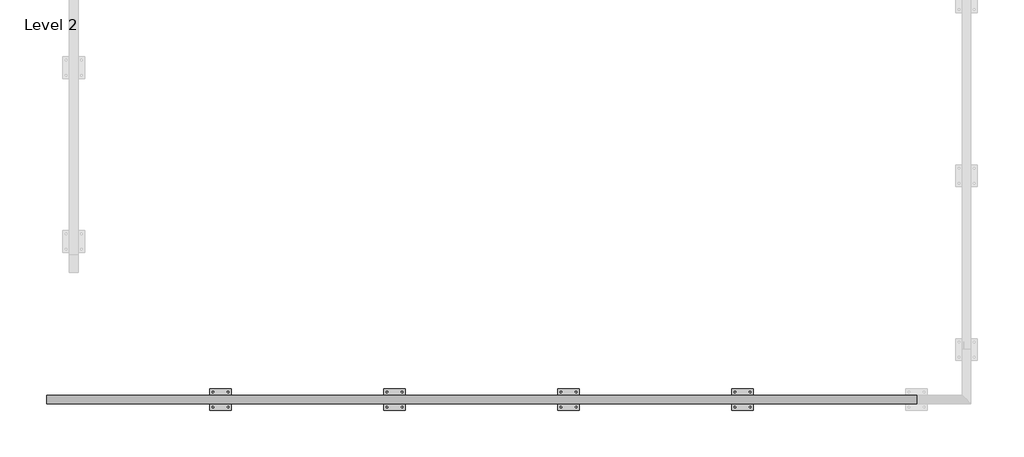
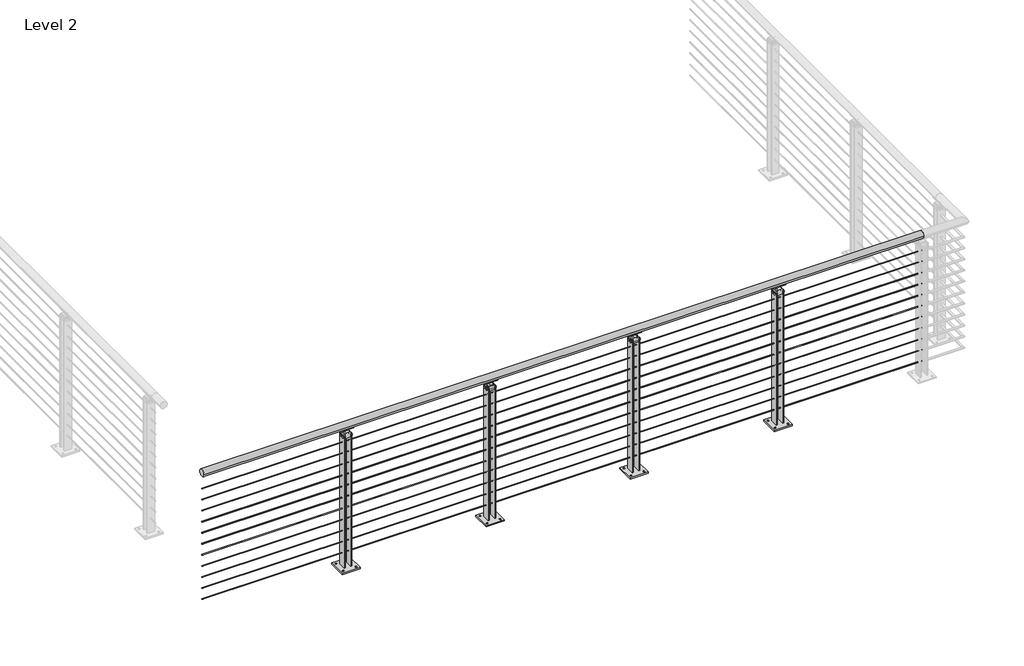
# One storey, part 21 of 31: 1 railing.
"""IFC4 building model written with IfcOpenShell, lengths in millimetres."""

import ifcopenshell
import ifcopenshell.guid

model = None  # the IFC model being written
_history = None  # IfcOwnerHistory: only IFC2X3 demands one
_inside = {}  # id of a spatial element -> (the spatial element, [elements in it])
_under = {}  # id of a project, library or spatial element -> (it, [spatial elements below it])
_declared = {}  # id of a project -> (the project, [libraries it declares])
_typed = {}  # id of a type object -> (the type object, [elements of that type])
_made_of = {}  # id of a material, layer set ... -> (it, [elements and type objects made of it])


def new_model(schema):
    """Start an empty IFC model of exactly this schema.

    Asked for "IFC4X3", IfcOpenShell would pick the latest addendum, in which some entities
    have other attributes; the version numbers below select the first issue.
    IFC2X3 requires an IfcOwnerHistory on every rooted entity: one is made here for all.
    """
    global model, _history
    if schema == "IFC4X3":
        model = ifcopenshell.file(schema_version=(4, 3, 0, 0))
    else:
        model = ifcopenshell.file(schema=schema)
    _inside.clear()
    _under.clear()
    _declared.clear()
    _typed.clear()
    _made_of.clear()
    _history = None
    if model.schema == "IFC2X3":
        org = make("IfcOrganization", Name="unknown")
        user = make(
            "IfcPersonAndOrganization",
            ThePerson=make("IfcPerson", FamilyName="unknown"),
            TheOrganization=org,
        )
        app = make(
            "IfcApplication",
            ApplicationDeveloper=org,
            Version="unknown",
            ApplicationFullName="unknown",
            ApplicationIdentifier="unknown",
        )
        _history = make(
            "IfcOwnerHistory",
            OwningUser=user,
            OwningApplication=app,
            ChangeAction="ADDED",
            CreationDate=0,
        )
    return model


def make(cls, **values):
    """One entity of the class cls with the attributes given. An attribute that is None is left unset."""
    return model.create_entity(
        cls, **{name: value for name, value in values.items() if value is not None}
    )


def rooted(cls, **values):
    """An entity with a GlobalId (a new one), such as an element, a storey or a relation."""
    return make(cls, GlobalId=ifcopenshell.guid.new(), OwnerHistory=_history, **values)


def si_unit(unit_type, name, prefix=None):
    """IfcSIUnit, for example si_unit("LENGTHUNIT", "METRE", prefix="MILLI")."""
    return make("IfcSIUnit", UnitType=unit_type, Prefix=prefix, Name=name)


def assignment(units):
    """IfcUnitAssignment: the units of a project."""
    return None if units is None else make("IfcUnitAssignment", Units=units)


def point(xyz):
    """IfcCartesianPoint."""
    return None if xyz is None else make("IfcCartesianPoint", Coordinates=xyz)


def direction(xyz):
    """IfcDirection."""
    return None if xyz is None else make("IfcDirection", DirectionRatios=xyz)


def frame(location, z_axis=None, x_axis=None):
    """IfcAxis2Placement3D, a coordinate frame: its origin and axes. An axis left out is left unset."""
    return make(
        "IfcAxis2Placement3D",
        Location=point(location),
        Axis=direction(z_axis),
        RefDirection=direction(x_axis),
    )


def frame_2d(location, x_axis=None):
    """IfcAxis2Placement2D, a coordinate frame in the plane: its origin and x axis."""
    return make(
        "IfcAxis2Placement2D", Location=point(location), RefDirection=direction(x_axis)
    )


def origin():
    """The frame at (0, 0, 0) with its axes left unset."""
    return frame((0.0, 0.0, 0.0))


def place(relative_to, where):
    """IfcLocalPlacement: puts the frame where relative to a parent placement (None: the world)."""
    return make(
        "IfcLocalPlacement", PlacementRelTo=relative_to, RelativePlacement=where
    )


def context(
    kind, dimensions, precision=None, world=None, true_north=None, identifier=None
):
    """IfcGeometricRepresentationContext, for example the 3D "Model" context."""
    return make(
        "IfcGeometricRepresentationContext",
        ContextIdentifier=identifier,
        ContextType=kind,
        CoordinateSpaceDimension=dimensions,
        Precision=precision,
        WorldCoordinateSystem=world,
        TrueNorth=true_north,
    )


def project(units=None, contexts=None):
    """IfcProject with its units and contexts."""
    return rooted(
        "IfcProject",
        Name="project",
        RepresentationContexts=contexts,
        UnitsInContext=assignment(units),
    )


def spatial(cls, under=None, at=None, **own):
    """A site, building, storey or space (cls), placed at a placement, below another one or the project."""
    s = rooted(cls, ObjectPlacement=at, **own)
    if under is not None:
        _under.setdefault(under.id(), (under, []))[1].append(s)
    return s


def polyline(points):
    """IfcPolyline through the points."""
    return make("IfcPolyline", Points=[point(p) for p in points])


def circle_curve(where, radius):
    """IfcCircle in the frame where."""
    return make("IfcCircle", Position=where, Radius=radius)


def trimmed(basis, trim1, trim2, sense, master):
    """IfcTrimmedCurve: the piece of a basis curve between two trims."""
    return make(
        "IfcTrimmedCurve",
        BasisCurve=basis,
        Trim1=trim1,
        Trim2=trim2,
        SenseAgreement=sense,
        MasterRepresentation=master,
    )


def segment(curve, same_sense, transition):
    """IfcCompositeCurveSegment."""
    return make(
        "IfcCompositeCurveSegment",
        Transition=transition,
        SameSense=same_sense,
        ParentCurve=curve,
    )


def composite_curve(segments, self_intersect=None):
    """IfcCompositeCurve: segments joined end to end."""
    return make("IfcCompositeCurve", Segments=segments, SelfIntersect=self_intersect)


def outline(outer, holes=None, kind="AREA"):
    """IfcArbitraryClosedProfileDef: a profile drawn as a closed curve; with holes, ...WithVoids."""
    if holes is None:
        return make("IfcArbitraryClosedProfileDef", ProfileType=kind, OuterCurve=outer)
    return make(
        "IfcArbitraryProfileDefWithVoids",
        ProfileType=kind,
        OuterCurve=outer,
        InnerCurves=holes,
    )


def extrude(swept, where, along, depth):
    """IfcExtrudedAreaSolid: the profile swept, set in the frame where, extruded along a direction by depth."""
    return make(
        "IfcExtrudedAreaSolid",
        SweptArea=swept,
        Position=where,
        ExtrudedDirection=direction(along),
        Depth=depth,
    )


def shape(context_of_items, identifier, shape_type, items):
    """IfcShapeRepresentation: the items that make up one representation, for example the "Body"."""
    return make(
        "IfcShapeRepresentation",
        ContextOfItems=context_of_items,
        RepresentationIdentifier=identifier,
        RepresentationType=shape_type,
        Items=items,
    )


def made_of(thing, what):
    """Note that an element or type object is made of a material, layer set ...; save() writes the relation."""
    if what is not None:
        _made_of.setdefault(what.id(), (what, []))[1].append(thing)
    return thing


def element(
    cls,
    number,
    at=None,
    inside=None,
    cuts=None,
    type_object=None,
    material=None,
    context=None,
    identifier="Body",
    shape_type=None,
    held_by="IfcProductDefinitionShape",
    body=None,
    shapes=None,
    **own,
):
    """One element of the class cls, such as IfcWall. Its Tag is "e" and its number.

    at: its placement. inside: the storey or other place that contains it. cuts: it is an
    opening in that element (IfcRelVoidsElement). A single representation is given by context,
    identifier, shape_type and body (its items); several are given by shapes. held_by: the class
    of the entity that holds the representations. save() writes the other relations.
    """
    e = rooted(cls, Tag="e%d" % number, ObjectPlacement=at, **own)
    if body is not None:
        shapes = [shape(context, identifier, shape_type, body)]
    if shapes is not None:
        e.Representation = make(held_by, Representations=shapes)
    if inside is not None:
        _inside.setdefault(inside.id(), (inside, []))[1].append(e)
    if cuts is not None:
        rooted(
            "IfcRelVoidsElement", RelatingBuildingElement=cuts, RelatedOpeningElement=e
        )
    if type_object is not None:
        _typed.setdefault(type_object.id(), (type_object, []))[1].append(e)
    return made_of(e, material)


def aggregate(whole, parts):
    """IfcRelAggregates: a whole, such as a stair, and the parts it consists of."""
    return rooted("IfcRelAggregates", RelatingObject=whole, RelatedObjects=parts)


def save(model, path):
    """Write the relations noted so far, then the file.

    IfcRelAggregates (storeys below a building ...), IfcRelContainedInSpatialStructure (elements
    in a storey), IfcRelDefinesByType, IfcRelAssociatesMaterial and IfcRelDeclares: one each for
    every whole, place, type object, material and project.
    """
    for whole, parts in _under.values():
        aggregate(whole, parts)
    for where, things in _inside.values():
        rooted(
            "IfcRelContainedInSpatialStructure",
            RelatedElements=things,
            RelatingStructure=where,
        )
    for kind, things in _typed.values():
        rooted("IfcRelDefinesByType", RelatedObjects=things, RelatingType=kind)
    for what, things in _made_of.values():
        rooted("IfcRelAssociatesMaterial", RelatedObjects=things, RelatingMaterial=what)
    for by, libraries in _declared.values():
        rooted("IfcRelDeclares", RelatingContext=by, RelatedDefinitions=libraries)
    model.write(path)


def plane_surface(at):
    """IfcPlane: the flat surface through the origin of the frame at, square to its z axis."""
    return make("IfcPlane", Position=at)


def cylinder_surface(at, radius):
    """IfcCylindricalSurface: all points at the distance radius from the z axis of the frame at."""
    return make("IfcCylindricalSurface", Position=at, Radius=radius)


def revolved_surface(curve, axis_point, axis_direction):
    """IfcSurfaceOfRevolution: the curve turned about the line through axis_point along axis_direction."""
    return make(
        "IfcSurfaceOfRevolution",
        SweptCurve=make("IfcArbitraryOpenProfileDef", ProfileType="CURVE", Curve=curve),
        AxisPosition=make("IfcAxis1Placement", Location=point(axis_point), Axis=direction(axis_direction)),
    )


def advanced_brep(points, edges, surfaces, faces):
    """IfcAdvancedBrep: a solid bounded by faces that lie on surfaces and meet in shared edges.

    An edge is (start, end): straight between two places in points (the first is 0);
    or (start, end, curve); or (start, end, curve, False) where it runs against its curve.
    A face is (place in surfaces, loops), or (place, loops, False) where it looks against
    its surface's normal. A loop lists edges by number (the first is 1), with a minus sign
    where the edge is run from its end to its start. The first loop is the outer one.
    """
    corners = [point(p) for p in points]
    vertices = [make("IfcVertexPoint", VertexGeometry=c) for c in corners]
    made = []
    for start, end, *more in edges:
        made.append(
            make(
                "IfcEdgeCurve",
                EdgeStart=vertices[start],
                EdgeEnd=vertices[end],
                EdgeGeometry=more[0] if more else make("IfcPolyline", Points=[corners[start], corners[end]]),
                SameSense=more[1] if len(more) > 1 else True,
            )
        )
    hull = []
    for where, loops, *sense in faces:
        bounds = []
        for j, loop in enumerate(loops):
            ring = [make("IfcOrientedEdge", EdgeElement=made[abs(k) - 1], Orientation=k > 0) for k in loop]
            bounds.append(
                make(
                    "IfcFaceOuterBound" if j == 0 else "IfcFaceBound",
                    Bound=make("IfcEdgeLoop", EdgeList=ring),
                    Orientation=True,
                )
            )
        hull.append(make("IfcAdvancedFace", Bounds=bounds, FaceSurface=surfaces[where], SameSense=sense[0] if sense else True))
    return make("IfcAdvancedBrep", Outer=make("IfcClosedShell", CfsFaces=hull))


model = new_model("IFC4")

# Units and contexts
model_context = context("Model", 3, world=origin())
ifc_project = project(units=[si_unit("LENGTHUNIT", "METRE", prefix="MILLI")], contexts=[model_context])

# Site, building, storey
site = spatial("IfcSite", under=ifc_project)
building = spatial("IfcBuilding", under=site)
storey = spatial("IfcBuildingStorey", under=building, Name="Level 2", Elevation=3048.0)

# Railing
placement = place(None, origin())
element("IfcRailing", 1, ObjectType="VIVA-BLADE-Cable-Floor Mount-Straight", at=placement, inside=storey, context=model_context, shape_type="SolidModel", body=[
    extrude(outline(composite_curve([segment(trimmed(circle_curve(frame_2d((-52104.7426165, 4102.1)), 25.4), [point((-52130.1426165, 4102.1))], [point((-52079.3426165, 4102.1))], False, "CARTESIAN"), True, "CONTINUOUS"), segment(trimmed(circle_curve(frame_2d((-52104.7426165, 4102.1)), 25.4), [point((-52079.3426165, 4102.1))], [point((-52130.1426165, 4102.1))], False, "CARTESIAN"), True, "CONTINUOUS")], self_intersect=False)), frame((15443.0072927, 0.0, 0.0), z_axis=(1.0, 0.0, 0.0), x_axis=(0.0, 1.0, 0.0)), (0.0, 0.0, 1.0), 5080.0),
    extrude(outline(composite_curve([segment(trimmed(circle_curve(frame_2d((-52104.7426165, 3985.4124)), 2.3876), [point((-52102.3550165, 3985.4124))], [point((-52107.1302165, 3985.4124))], False, "CARTESIAN"), True, "CONTINUOUS"), segment(trimmed(circle_curve(frame_2d((-52104.7426165, 3985.4124)), 2.3876), [point((-52107.1302165, 3985.4124))], [point((-52102.3550165, 3985.4124))], False, "CARTESIAN"), True, "CONTINUOUS")], self_intersect=False)), frame((15443.0072927, 0.0, 0.0), z_axis=(1.0, 0.0, 0.0), x_axis=(0.0, 1.0, 0.0)), (0.0, 0.0, 1.0), 5080.0),
    extrude(outline(composite_curve([segment(trimmed(circle_curve(frame_2d((-52104.7426165, 3902.8624)), 2.3876), [point((-52102.3550165, 3902.8624))], [point((-52107.1302165, 3902.8624))], False, "CARTESIAN"), True, "CONTINUOUS"), segment(trimmed(circle_curve(frame_2d((-52104.7426165, 3902.8624)), 2.3876), [point((-52107.1302165, 3902.8624))], [point((-52102.3550165, 3902.8624))], False, "CARTESIAN"), True, "CONTINUOUS")], self_intersect=False)), frame((15443.0072927, 0.0, 0.0), z_axis=(1.0, 0.0, 0.0), x_axis=(0.0, 1.0, 0.0)), (0.0, 0.0, 1.0), 5080.0),
    extrude(outline(composite_curve([segment(trimmed(circle_curve(frame_2d((-52104.7426165, 3820.3124)), 2.3876), [point((-52102.3550165, 3820.3124))], [point((-52107.1302165, 3820.3124))], False, "CARTESIAN"), True, "CONTINUOUS"), segment(trimmed(circle_curve(frame_2d((-52104.7426165, 3820.3124)), 2.3876), [point((-52107.1302165, 3820.3124))], [point((-52102.3550165, 3820.3124))], False, "CARTESIAN"), True, "CONTINUOUS")], self_intersect=False)), frame((15443.0072927, 0.0, 0.0), z_axis=(1.0, 0.0, 0.0), x_axis=(0.0, 1.0, 0.0)), (0.0, 0.0, 1.0), 5080.0),
    extrude(outline(composite_curve([segment(trimmed(circle_curve(frame_2d((-52104.7426165, 3737.7624)), 2.3876), [point((-52102.3550165, 3737.7624))], [point((-52107.1302165, 3737.7624))], False, "CARTESIAN"), True, "CONTINUOUS"), segment(trimmed(circle_curve(frame_2d((-52104.7426165, 3737.7624)), 2.3876), [point((-52107.1302165, 3737.7624))], [point((-52102.3550165, 3737.7624))], False, "CARTESIAN"), True, "CONTINUOUS")], self_intersect=False)), frame((15443.0072927, 0.0, 0.0), z_axis=(1.0, 0.0, 0.0), x_axis=(0.0, 1.0, 0.0)), (0.0, 0.0, 1.0), 5080.0),
    extrude(outline(composite_curve([segment(trimmed(circle_curve(frame_2d((-52104.7426165, 3655.2124)), 2.3876), [point((-52102.3550165, 3655.2124))], [point((-52107.1302165, 3655.2124))], False, "CARTESIAN"), True, "CONTINUOUS"), segment(trimmed(circle_curve(frame_2d((-52104.7426165, 3655.2124)), 2.3876), [point((-52107.1302165, 3655.2124))], [point((-52102.3550165, 3655.2124))], False, "CARTESIAN"), True, "CONTINUOUS")], self_intersect=False)), frame((15443.0072927, 0.0, 0.0), z_axis=(1.0, 0.0, 0.0), x_axis=(0.0, 1.0, 0.0)), (0.0, 0.0, 1.0), 5080.0),
    extrude(outline(composite_curve([segment(trimmed(circle_curve(frame_2d((-52104.7426165, 3572.6624)), 2.3876), [point((-52102.3550165, 3572.6624))], [point((-52107.1302165, 3572.6624))], False, "CARTESIAN"), True, "CONTINUOUS"), segment(trimmed(circle_curve(frame_2d((-52104.7426165, 3572.6624)), 2.3876), [point((-52107.1302165, 3572.6624))], [point((-52102.3550165, 3572.6624))], False, "CARTESIAN"), True, "CONTINUOUS")], self_intersect=False)), frame((15443.0072927, 0.0, 0.0), z_axis=(1.0, 0.0, 0.0), x_axis=(0.0, 1.0, 0.0)), (0.0, 0.0, 1.0), 5080.0),
    extrude(outline(composite_curve([segment(trimmed(circle_curve(frame_2d((-52104.7426165, 3490.1124)), 2.3876), [point((-52102.3550165, 3490.1124))], [point((-52107.1302165, 3490.1124))], False, "CARTESIAN"), True, "CONTINUOUS"), segment(trimmed(circle_curve(frame_2d((-52104.7426165, 3490.1124)), 2.3876), [point((-52107.1302165, 3490.1124))], [point((-52102.3550165, 3490.1124))], False, "CARTESIAN"), True, "CONTINUOUS")], self_intersect=False)), frame((15443.0072927, 0.0, 0.0), z_axis=(1.0, 0.0, 0.0), x_axis=(0.0, 1.0, 0.0)), (0.0, 0.0, 1.0), 5080.0),
    extrude(outline(composite_curve([segment(trimmed(circle_curve(frame_2d((-52104.7426165, 3407.5624)), 2.3876), [point((-52102.3550165, 3407.5624))], [point((-52107.1302165, 3407.5624))], False, "CARTESIAN"), True, "CONTINUOUS"), segment(trimmed(circle_curve(frame_2d((-52104.7426165, 3407.5624)), 2.3876), [point((-52107.1302165, 3407.5624))], [point((-52102.3550165, 3407.5624))], False, "CARTESIAN"), True, "CONTINUOUS")], self_intersect=False)), frame((15443.0072927, 0.0, 0.0), z_axis=(1.0, 0.0, 0.0), x_axis=(0.0, 1.0, 0.0)), (0.0, 0.0, 1.0), 5080.0),
    extrude(outline(composite_curve([segment(trimmed(circle_curve(frame_2d((-52104.7426165, 3325.0124)), 2.3876), [point((-52102.3550165, 3325.0124))], [point((-52107.1302165, 3325.0124))], False, "CARTESIAN"), True, "CONTINUOUS"), segment(trimmed(circle_curve(frame_2d((-52104.7426165, 3325.0124)), 2.3876), [point((-52107.1302165, 3325.0124))], [point((-52102.3550165, 3325.0124))], False, "CARTESIAN"), True, "CONTINUOUS")], self_intersect=False)), frame((15443.0072927, 0.0, 0.0), z_axis=(1.0, 0.0, 0.0), x_axis=(0.0, 1.0, 0.0)), (0.0, 0.0, 1.0), 5080.0),
    extrude(outline(composite_curve([segment(trimmed(circle_curve(frame_2d((-52104.7426165, 3242.4624)), 2.3876), [point((-52102.3550165, 3242.4624))], [point((-52107.1302165, 3242.4624))], False, "CARTESIAN"), True, "CONTINUOUS"), segment(trimmed(circle_curve(frame_2d((-52104.7426165, 3242.4624)), 2.3876), [point((-52107.1302165, 3242.4624))], [point((-52102.3550165, 3242.4624))], False, "CARTESIAN"), True, "CONTINUOUS")], self_intersect=False)), frame((15443.0072927, 0.0, 0.0), z_axis=(1.0, 0.0, 0.0), x_axis=(0.0, 1.0, 0.0)), (0.0, 0.0, 1.0), 5080.0),
    extrude(outline(composite_curve([segment(trimmed(circle_curve(frame_2d((-52104.7426165, 3159.9124)), 2.3876), [point((-52102.3550165, 3159.9124))], [point((-52107.1302165, 3159.9124))], False, "CARTESIAN"), True, "CONTINUOUS"), segment(trimmed(circle_curve(frame_2d((-52104.7426165, 3159.9124)), 2.3876), [point((-52107.1302165, 3159.9124))], [point((-52102.3550165, 3159.9124))], False, "CARTESIAN"), True, "CONTINUOUS")], self_intersect=False)), frame((15443.0072927, 0.0, 0.0), z_axis=(1.0, 0.0, 0.0), x_axis=(0.0, 1.0, 0.0)), (0.0, 0.0, 1.0), 5080.0),
    advanced_brep(
    [(19552.2446927, -52091.9824929, 4080.0967655), (19552.2446927, -52116.8545574, 4079.9535285), (19552.2446927, -52119.6634877, 4075.1267745), (19552.2446927, -52088.1465955, 4075.707533), (19461.7698927, -52091.9824929, 4080.0967655), (19461.7698927, -52088.1465955, 4075.707533), (19461.7698927, -52119.7772811, 4075.1893964), (19461.7698927, -52116.9415296, 4080.0018447)],
    [
        (0, 1, circle_curve(frame((19552.2446927, -52104.5462958, 4102.2115898), z_axis=(-1.0, 0.0, 0.0), x_axis=(0.0, 1.0, 0.0)), 25.4345159)),
        (1, 2, circle_curve(frame((19552.2446927, -52118.1861827, 4077.4993599), z_axis=(1.0, 0.0, 0.0), x_axis=(0.0, 1.0, 0.0)), 2.7949225)),
        (2, 3, circle_curve(frame((19552.2446927, -52104.4128327, 4102.9742164), z_axis=(1.0, 0.0, 0.0), x_axis=(0.0, 1.0, 0.0)), 31.75)),
        (3, 0, circle_curve(frame((19552.2446927, -52090.4349352, 4077.5784521), z_axis=(1.0, 0.0, 0.0), x_axis=(0.0, 1.0, 0.0)), 2.9558141)),
        (4, 5, circle_curve(frame((19461.7698927, -52090.4349352, 4077.5784521), z_axis=(-1.0, 0.0, 0.0), x_axis=(0.0, 1.0, 0.0)), 2.9558141)),
        (5, 6, circle_curve(frame((19461.7698927, -52104.4128327, 4102.9742164), z_axis=(-1.0, 0.0, 0.0), x_axis=(0.0, 1.0, 0.0)), 31.75)),
        (6, 7, circle_curve(frame((19461.7698927, -52118.1861827, 4077.4993599), z_axis=(-1.0, 0.0, 0.0), x_axis=(0.0, 1.0, 0.0)), 2.7949225)),
        (7, 4, circle_curve(frame((19461.7698927, -52104.5462958, 4102.2115898), z_axis=(1.0, 0.0, 0.0), x_axis=(0.0, 1.0, 0.0)), 25.4345159)),
        (0, 4),
        (7, 1),
        (6, 2),
        (5, 3),
    ],
    [
        plane_surface(frame((19552.2446927, -52079.1117799, 4102.2115898), z_axis=(1.0, 0.0, 0.0), x_axis=(0.0, 0.0, -1.0))),
        plane_surface(frame((19461.7698927, -52079.1117799, 4102.2115898), z_axis=(-1.0, 0.0, 0.0), x_axis=(0.0, 0.0, 1.0))),
        revolved_surface(polyline([(19461.7698927, -52079.1117799, 4102.2115898), (19552.2446927, -52079.1117799, 4102.2115898)]), (19461.7698927, -52104.5462958, 4102.2115898), (-1.0, 0.0, 0.0)),
        cylinder_surface(frame((19461.7698927, -52118.1861827, 4077.4993599), z_axis=(1.0, 0.0, 0.0), x_axis=(0.0, 1.0, 0.0)), 2.7949225),
        cylinder_surface(frame((19461.7698927, -52104.4128327, 4102.9742164), z_axis=(1.0, 0.0, 0.0), x_axis=(0.0, 1.0, 0.0)), 31.75),
        cylinder_surface(frame((19461.7698927, -52090.4349352, 4077.5784521), z_axis=(1.0, 0.0, 0.0), x_axis=(0.0, 1.0, 0.0)), 2.9558141),
    ],
    [
        (0, [[1, 2, 3, 4]]),
        (1, [[5, 6, 7, 8]]),
        (2, [[-1, 9, -8, 10]]),
        (3, [[-2, -10, -7, 11]]),
        (4, [[-3, -11, -6, 12]]),
        (5, [[-4, -12, -5, -9]]),
    ],
),
    extrude(outline(composite_curve([segment(trimmed(circle_curve(frame_2d((4062.4125, 19534.0752076)), 14.3679149), [point((4062.4125, 19519.7072927))], [point((4076.7804149, 19534.0752076))], True, "CARTESIAN"), True, "CONTINUOUS"), segment(polyline([(4076.7804149, 19534.0752076), (4076.7804149, 19479.9393778)]), True, "CONTINUOUS"), segment(trimmed(circle_curve(frame_2d((4062.4125, 19479.9393778)), 14.3679149), [point((4076.7804149, 19479.9393778))], [point((4062.4125, 19494.3072927))], True, "CARTESIAN"), True, "CONTINUOUS"), segment(polyline([(4062.4125, 19494.3072927), (4062.4125, 19519.7072927)]), True, "CONTINUOUS")], self_intersect=False)), frame((0.0, -52107.2826165, 0.0), z_axis=(0.0, 1.0, 0.0), x_axis=(0.0, 0.0, 1.0)), (0.0, 0.0, 1.0), 5.08),
    extrude(outline(polyline([(19570.4953558, -52168.2414225), (19443.4953558, -52168.2414225), (19443.4953558, -52041.2438106), (19570.4953558, -52041.2438106), (19570.4953558, -52168.2414225)]), holes=[composite_curve([segment(trimmed(circle_curve(frame_2d((19462.5453558, -52149.1914225)), 4.7625), [point((19462.5453558, -52153.9539225))], [point((19462.5453558, -52144.4289225))], True, "CARTESIAN"), True, "CONTINUOUS"), segment(trimmed(circle_curve(frame_2d((19462.5453558, -52149.1914225)), 4.7625), [point((19462.5453558, -52144.4289225))], [point((19462.5453558, -52153.9539225))], True, "CARTESIAN"), True, "CONTINUOUS")], self_intersect=False), composite_curve([segment(trimmed(circle_curve(frame_2d((19462.5453558, -52060.2938106)), 4.7625), [point((19462.5453558, -52065.0563106))], [point((19462.5453558, -52055.5313106))], True, "CARTESIAN"), True, "CONTINUOUS"), segment(trimmed(circle_curve(frame_2d((19462.5453558, -52060.2938106)), 4.7625), [point((19462.5453558, -52055.5313106))], [point((19462.5453558, -52065.0563106))], True, "CARTESIAN"), True, "CONTINUOUS")], self_intersect=False), composite_curve([segment(trimmed(circle_curve(frame_2d((19551.4453558, -52060.2938106)), 4.7625), [point((19551.4453558, -52065.0563106))], [point((19551.4453558, -52055.5313106))], True, "CARTESIAN"), True, "CONTINUOUS"), segment(trimmed(circle_curve(frame_2d((19551.4453558, -52060.2938106)), 4.7625), [point((19551.4453558, -52055.5313106))], [point((19551.4453558, -52065.0563106))], True, "CARTESIAN"), True, "CONTINUOUS")], self_intersect=False), composite_curve([segment(trimmed(circle_curve(frame_2d((19551.4453558, -52149.1914225)), 4.7625), [point((19551.4453558, -52153.9539225))], [point((19551.4453558, -52144.4289225))], True, "CARTESIAN"), True, "CONTINUOUS"), segment(trimmed(circle_curve(frame_2d((19551.4453558, -52149.1914225)), 4.7625), [point((19551.4453558, -52144.4289225))], [point((19551.4453558, -52153.9539225))], True, "CARTESIAN"), True, "CONTINUOUS")], self_intersect=False)]), frame((0.0, 0.0, 3048.0), z_axis=(0.0, 0.0, 1.0), x_axis=(1.0, 0.0, 0.0)), (0.0, 0.0, 1.0), 9.525),
    extrude(outline(polyline([(19479.932457, -52079.3428199), (19487.9572927, -52079.3428199), (19487.9572927, -52130.1451445), (19479.932457, -52130.1451445), (19479.932457, -52079.3428199)])), frame((0.0, 0.0, 3048.0), z_axis=(0.0, 0.0, 1.0), x_axis=(1.0, 0.0, 0.0)), (0.0, 0.0, 1.0), 996.95),
    extrude(outline(composite_curve([segment(trimmed(circle_curve(frame_2d((-52117.4450935, 4034.0416929)), 8.89), [point((-52126.3350935, 4034.0416929))], [point((-52108.5550935, 4034.0416929))], False, "CARTESIAN"), True, "CONTINUOUS"), segment(trimmed(circle_curve(frame_2d((-52117.4450935, 4034.0416929)), 8.89), [point((-52108.5550935, 4034.0416929))], [point((-52126.3350935, 4034.0416929))], False, "CARTESIAN"), True, "CONTINUOUS")], self_intersect=False)), frame((19475.2572927, 0.0, 0.0), z_axis=(1.0, 0.0, 0.0), x_axis=(0.0, 1.0, 0.0)), (0.0, 0.0, 1.0), 63.4880631),
    extrude(outline(composite_curve([segment(trimmed(circle_curve(frame_2d((-52092.0451955, 4034.0416929)), 8.89), [point((-52100.9351955, 4034.0416929))], [point((-52083.1551955, 4034.0416929))], False, "CARTESIAN"), True, "CONTINUOUS"), segment(trimmed(circle_curve(frame_2d((-52092.0451955, 4034.0416929)), 8.89), [point((-52083.1551955, 4034.0416929))], [point((-52100.9351955, 4034.0416929))], False, "CARTESIAN"), True, "CONTINUOUS")], self_intersect=False)), frame((19475.2572927, 0.0, 0.0), z_axis=(1.0, 0.0, 0.0), x_axis=(0.0, 1.0, 0.0)), (0.0, 0.0, 1.0), 63.4880631),
    extrude(outline(polyline([(4022.7123, 19487.9572927), (4022.7123, 19526.0572927), (4056.0625, 19526.0572927), (4062.4125, 19519.7072927), (4062.4125, 19494.3072927), (4056.0625, 19487.9572927), (4022.7123, 19487.9572927)])), frame((0.0, -52130.1451445, 0.0), z_axis=(0.0, 1.0, 0.0), x_axis=(0.0, 0.0, 1.0)), (0.0, 0.0, 1.0), 50.8025279),
    extrude(outline(polyline([(19526.0572547, -52079.3428199), (19534.0582547, -52079.3428199), (19534.0582547, -52130.1451445), (19526.0572547, -52130.1451445), (19526.0572547, -52079.3428199)])), frame((0.0, 0.0, 3048.0), z_axis=(0.0, 0.0, 1.0), x_axis=(1.0, 0.0, 0.0)), (0.0, 0.0, 1.0), 996.95),
    advanced_brep(
    [(18536.2446927, -52091.9824929, 4080.0967655), (18536.2446927, -52116.8545574, 4079.9535285), (18536.2446927, -52119.6634877, 4075.1267745), (18536.2446927, -52088.1465955, 4075.707533), (18445.7698927, -52091.9824929, 4080.0967655), (18445.7698927, -52088.1465955, 4075.707533), (18445.7698927, -52119.7772811, 4075.1893964), (18445.7698927, -52116.9415296, 4080.0018447)],
    [
        (0, 1, circle_curve(frame((18536.2446927, -52104.5462958, 4102.2115898), z_axis=(-1.0, 0.0, 0.0), x_axis=(0.0, 1.0, 0.0)), 25.4345159)),
        (1, 2, circle_curve(frame((18536.2446927, -52118.1861827, 4077.4993599), z_axis=(1.0, 0.0, 0.0), x_axis=(0.0, 1.0, 0.0)), 2.7949225)),
        (2, 3, circle_curve(frame((18536.2446927, -52104.4128327, 4102.9742164), z_axis=(1.0, 0.0, 0.0), x_axis=(0.0, 1.0, 0.0)), 31.75)),
        (3, 0, circle_curve(frame((18536.2446927, -52090.4349352, 4077.5784521), z_axis=(1.0, 0.0, 0.0), x_axis=(0.0, 1.0, 0.0)), 2.9558141)),
        (4, 5, circle_curve(frame((18445.7698927, -52090.4349352, 4077.5784521), z_axis=(-1.0, 0.0, 0.0), x_axis=(0.0, 1.0, 0.0)), 2.9558141)),
        (5, 6, circle_curve(frame((18445.7698927, -52104.4128327, 4102.9742164), z_axis=(-1.0, 0.0, 0.0), x_axis=(0.0, 1.0, 0.0)), 31.75)),
        (6, 7, circle_curve(frame((18445.7698927, -52118.1861827, 4077.4993599), z_axis=(-1.0, 0.0, 0.0), x_axis=(0.0, 1.0, 0.0)), 2.7949225)),
        (7, 4, circle_curve(frame((18445.7698927, -52104.5462958, 4102.2115898), z_axis=(1.0, 0.0, 0.0), x_axis=(0.0, 1.0, 0.0)), 25.4345159)),
        (0, 4),
        (7, 1),
        (6, 2),
        (5, 3),
    ],
    [
        plane_surface(frame((18536.2446927, -52079.1117799, 4102.2115898), z_axis=(1.0, 0.0, 0.0), x_axis=(0.0, 0.0, -1.0))),
        plane_surface(frame((18445.7698927, -52079.1117799, 4102.2115898), z_axis=(-1.0, 0.0, 0.0), x_axis=(0.0, 0.0, 1.0))),
        revolved_surface(polyline([(18445.7698927, -52079.1117799, 4102.2115898), (18536.2446927, -52079.1117799, 4102.2115898)]), (18445.7698927, -52104.5462958, 4102.2115898), (-1.0, 0.0, 0.0)),
        cylinder_surface(frame((18445.7698927, -52118.1861827, 4077.4993599), z_axis=(1.0, 0.0, 0.0), x_axis=(0.0, 1.0, 0.0)), 2.7949225),
        cylinder_surface(frame((18445.7698927, -52104.4128327, 4102.9742164), z_axis=(1.0, 0.0, 0.0), x_axis=(0.0, 1.0, 0.0)), 31.75),
        cylinder_surface(frame((18445.7698927, -52090.4349352, 4077.5784521), z_axis=(1.0, 0.0, 0.0), x_axis=(0.0, 1.0, 0.0)), 2.9558141),
    ],
    [
        (0, [[1, 2, 3, 4]]),
        (1, [[5, 6, 7, 8]]),
        (2, [[-1, 9, -8, 10]]),
        (3, [[-2, -10, -7, 11]]),
        (4, [[-3, -11, -6, 12]]),
        (5, [[-4, -12, -5, -9]]),
    ],
),
    extrude(outline(composite_curve([segment(trimmed(circle_curve(frame_2d((4062.4125, 18518.0752076)), 14.3679149), [point((4062.4125, 18503.7072927))], [point((4076.7804149, 18518.0752076))], True, "CARTESIAN"), True, "CONTINUOUS"), segment(polyline([(4076.7804149, 18518.0752076), (4076.7804149, 18463.9393778)]), True, "CONTINUOUS"), segment(trimmed(circle_curve(frame_2d((4062.4125, 18463.9393778)), 14.3679149), [point((4076.7804149, 18463.9393778))], [point((4062.4125, 18478.3072927))], True, "CARTESIAN"), True, "CONTINUOUS"), segment(polyline([(4062.4125, 18478.3072927), (4062.4125, 18503.7072927)]), True, "CONTINUOUS")], self_intersect=False)), frame((0.0, -52107.2826165, 0.0), z_axis=(0.0, 1.0, 0.0), x_axis=(0.0, 0.0, 1.0)), (0.0, 0.0, 1.0), 5.08),
    extrude(outline(polyline([(18554.4953558, -52168.2414225), (18427.4953558, -52168.2414225), (18427.4953558, -52041.2438106), (18554.4953558, -52041.2438106), (18554.4953558, -52168.2414225)]), holes=[composite_curve([segment(trimmed(circle_curve(frame_2d((18446.5453558, -52149.1914225)), 4.7625), [point((18446.5453558, -52153.9539225))], [point((18446.5453558, -52144.4289225))], True, "CARTESIAN"), True, "CONTINUOUS"), segment(trimmed(circle_curve(frame_2d((18446.5453558, -52149.1914225)), 4.7625), [point((18446.5453558, -52144.4289225))], [point((18446.5453558, -52153.9539225))], True, "CARTESIAN"), True, "CONTINUOUS")], self_intersect=False), composite_curve([segment(trimmed(circle_curve(frame_2d((18446.5453558, -52060.2938106)), 4.7625), [point((18446.5453558, -52065.0563106))], [point((18446.5453558, -52055.5313106))], True, "CARTESIAN"), True, "CONTINUOUS"), segment(trimmed(circle_curve(frame_2d((18446.5453558, -52060.2938106)), 4.7625), [point((18446.5453558, -52055.5313106))], [point((18446.5453558, -52065.0563106))], True, "CARTESIAN"), True, "CONTINUOUS")], self_intersect=False), composite_curve([segment(trimmed(circle_curve(frame_2d((18535.4453558, -52060.2938106)), 4.7625), [point((18535.4453558, -52065.0563106))], [point((18535.4453558, -52055.5313106))], True, "CARTESIAN"), True, "CONTINUOUS"), segment(trimmed(circle_curve(frame_2d((18535.4453558, -52060.2938106)), 4.7625), [point((18535.4453558, -52055.5313106))], [point((18535.4453558, -52065.0563106))], True, "CARTESIAN"), True, "CONTINUOUS")], self_intersect=False), composite_curve([segment(trimmed(circle_curve(frame_2d((18535.4453558, -52149.1914225)), 4.7625), [point((18535.4453558, -52153.9539225))], [point((18535.4453558, -52144.4289225))], True, "CARTESIAN"), True, "CONTINUOUS"), segment(trimmed(circle_curve(frame_2d((18535.4453558, -52149.1914225)), 4.7625), [point((18535.4453558, -52144.4289225))], [point((18535.4453558, -52153.9539225))], True, "CARTESIAN"), True, "CONTINUOUS")], self_intersect=False)]), frame((0.0, 0.0, 3048.0), z_axis=(0.0, 0.0, 1.0), x_axis=(1.0, 0.0, 0.0)), (0.0, 0.0, 1.0), 9.525),
    extrude(outline(polyline([(18463.932457, -52079.3428199), (18471.9572927, -52079.3428199), (18471.9572927, -52130.1451445), (18463.932457, -52130.1451445), (18463.932457, -52079.3428199)])), frame((0.0, 0.0, 3048.0), z_axis=(0.0, 0.0, 1.0), x_axis=(1.0, 0.0, 0.0)), (0.0, 0.0, 1.0), 996.95),
    extrude(outline(composite_curve([segment(trimmed(circle_curve(frame_2d((-52117.4450935, 4034.0416929)), 8.89), [point((-52126.3350935, 4034.0416929))], [point((-52108.5550935, 4034.0416929))], False, "CARTESIAN"), True, "CONTINUOUS"), segment(trimmed(circle_curve(frame_2d((-52117.4450935, 4034.0416929)), 8.89), [point((-52108.5550935, 4034.0416929))], [point((-52126.3350935, 4034.0416929))], False, "CARTESIAN"), True, "CONTINUOUS")], self_intersect=False)), frame((18459.2572927, 0.0, 0.0), z_axis=(1.0, 0.0, 0.0), x_axis=(0.0, 1.0, 0.0)), (0.0, 0.0, 1.0), 63.4880631),
    extrude(outline(composite_curve([segment(trimmed(circle_curve(frame_2d((-52092.0451955, 4034.0416929)), 8.89), [point((-52100.9351955, 4034.0416929))], [point((-52083.1551955, 4034.0416929))], False, "CARTESIAN"), True, "CONTINUOUS"), segment(trimmed(circle_curve(frame_2d((-52092.0451955, 4034.0416929)), 8.89), [point((-52083.1551955, 4034.0416929))], [point((-52100.9351955, 4034.0416929))], False, "CARTESIAN"), True, "CONTINUOUS")], self_intersect=False)), frame((18459.2572927, 0.0, 0.0), z_axis=(1.0, 0.0, 0.0), x_axis=(0.0, 1.0, 0.0)), (0.0, 0.0, 1.0), 63.4880631),
    extrude(outline(polyline([(4022.7123, 18471.9572927), (4022.7123, 18510.0572927), (4056.0625, 18510.0572927), (4062.4125, 18503.7072927), (4062.4125, 18478.3072927), (4056.0625, 18471.9572927), (4022.7123, 18471.9572927)])), frame((0.0, -52130.1451445, 0.0), z_axis=(0.0, 1.0, 0.0), x_axis=(0.0, 0.0, 1.0)), (0.0, 0.0, 1.0), 50.8025279),
    extrude(outline(polyline([(18510.0572547, -52079.3428199), (18518.0582547, -52079.3428199), (18518.0582547, -52130.1451445), (18510.0572547, -52130.1451445), (18510.0572547, -52079.3428199)])), frame((0.0, 0.0, 3048.0), z_axis=(0.0, 0.0, 1.0), x_axis=(1.0, 0.0, 0.0)), (0.0, 0.0, 1.0), 996.95),
    advanced_brep(
    [(17520.2446927, -52091.9824929, 4080.0967655), (17520.2446927, -52116.8545574, 4079.9535285), (17520.2446927, -52119.6634877, 4075.1267745), (17520.2446927, -52088.1465955, 4075.707533), (17429.7698927, -52091.9824929, 4080.0967655), (17429.7698927, -52088.1465955, 4075.707533), (17429.7698927, -52119.7772811, 4075.1893964), (17429.7698927, -52116.9415296, 4080.0018447)],
    [
        (0, 1, circle_curve(frame((17520.2446927, -52104.5462958, 4102.2115898), z_axis=(-1.0, 0.0, 0.0), x_axis=(0.0, 1.0, 0.0)), 25.4345159)),
        (1, 2, circle_curve(frame((17520.2446927, -52118.1861827, 4077.4993599), z_axis=(1.0, 0.0, 0.0), x_axis=(0.0, 1.0, 0.0)), 2.7949225)),
        (2, 3, circle_curve(frame((17520.2446927, -52104.4128327, 4102.9742164), z_axis=(1.0, 0.0, 0.0), x_axis=(0.0, 1.0, 0.0)), 31.75)),
        (3, 0, circle_curve(frame((17520.2446927, -52090.4349352, 4077.5784521), z_axis=(1.0, 0.0, 0.0), x_axis=(0.0, 1.0, 0.0)), 2.9558141)),
        (4, 5, circle_curve(frame((17429.7698927, -52090.4349352, 4077.5784521), z_axis=(-1.0, 0.0, 0.0), x_axis=(0.0, 1.0, 0.0)), 2.9558141)),
        (5, 6, circle_curve(frame((17429.7698927, -52104.4128327, 4102.9742164), z_axis=(-1.0, 0.0, 0.0), x_axis=(0.0, 1.0, 0.0)), 31.75)),
        (6, 7, circle_curve(frame((17429.7698927, -52118.1861827, 4077.4993599), z_axis=(-1.0, 0.0, 0.0), x_axis=(0.0, 1.0, 0.0)), 2.7949225)),
        (7, 4, circle_curve(frame((17429.7698927, -52104.5462958, 4102.2115898), z_axis=(1.0, 0.0, 0.0), x_axis=(0.0, 1.0, 0.0)), 25.4345159)),
        (0, 4),
        (7, 1),
        (6, 2),
        (5, 3),
    ],
    [
        plane_surface(frame((17520.2446927, -52079.1117799, 4102.2115898), z_axis=(1.0, 0.0, 0.0), x_axis=(0.0, 0.0, -1.0))),
        plane_surface(frame((17429.7698927, -52079.1117799, 4102.2115898), z_axis=(-1.0, 0.0, 0.0), x_axis=(0.0, 0.0, 1.0))),
        revolved_surface(polyline([(17429.7698927, -52079.1117799, 4102.2115898), (17520.2446927, -52079.1117799, 4102.2115898)]), (17429.7698927, -52104.5462958, 4102.2115898), (-1.0, 0.0, 0.0)),
        cylinder_surface(frame((17429.7698927, -52118.1861827, 4077.4993599), z_axis=(1.0, 0.0, 0.0), x_axis=(0.0, 1.0, 0.0)), 2.7949225),
        cylinder_surface(frame((17429.7698927, -52104.4128327, 4102.9742164), z_axis=(1.0, 0.0, 0.0), x_axis=(0.0, 1.0, 0.0)), 31.75),
        cylinder_surface(frame((17429.7698927, -52090.4349352, 4077.5784521), z_axis=(1.0, 0.0, 0.0), x_axis=(0.0, 1.0, 0.0)), 2.9558141),
    ],
    [
        (0, [[1, 2, 3, 4]]),
        (1, [[5, 6, 7, 8]]),
        (2, [[-1, 9, -8, 10]]),
        (3, [[-2, -10, -7, 11]]),
        (4, [[-3, -11, -6, 12]]),
        (5, [[-4, -12, -5, -9]]),
    ],
),
    extrude(outline(composite_curve([segment(trimmed(circle_curve(frame_2d((4062.4125, 17502.0752076)), 14.3679149), [point((4062.4125, 17487.7072927))], [point((4076.7804149, 17502.0752076))], True, "CARTESIAN"), True, "CONTINUOUS"), segment(polyline([(4076.7804149, 17502.0752076), (4076.7804149, 17447.9393778)]), True, "CONTINUOUS"), segment(trimmed(circle_curve(frame_2d((4062.4125, 17447.9393778)), 14.3679149), [point((4076.7804149, 17447.9393778))], [point((4062.4125, 17462.3072927))], True, "CARTESIAN"), True, "CONTINUOUS"), segment(polyline([(4062.4125, 17462.3072927), (4062.4125, 17487.7072927)]), True, "CONTINUOUS")], self_intersect=False)), frame((0.0, -52107.2826165, 0.0), z_axis=(0.0, 1.0, 0.0), x_axis=(0.0, 0.0, 1.0)), (0.0, 0.0, 1.0), 5.08),
    extrude(outline(polyline([(17538.4953558, -52168.2414225), (17411.4953558, -52168.2414225), (17411.4953558, -52041.2438106), (17538.4953558, -52041.2438106), (17538.4953558, -52168.2414225)]), holes=[composite_curve([segment(trimmed(circle_curve(frame_2d((17430.5453558, -52149.1914225)), 4.7625), [point((17430.5453558, -52153.9539225))], [point((17430.5453558, -52144.4289225))], True, "CARTESIAN"), True, "CONTINUOUS"), segment(trimmed(circle_curve(frame_2d((17430.5453558, -52149.1914225)), 4.7625), [point((17430.5453558, -52144.4289225))], [point((17430.5453558, -52153.9539225))], True, "CARTESIAN"), True, "CONTINUOUS")], self_intersect=False), composite_curve([segment(trimmed(circle_curve(frame_2d((17430.5453558, -52060.2938106)), 4.7625), [point((17430.5453558, -52065.0563106))], [point((17430.5453558, -52055.5313106))], True, "CARTESIAN"), True, "CONTINUOUS"), segment(trimmed(circle_curve(frame_2d((17430.5453558, -52060.2938106)), 4.7625), [point((17430.5453558, -52055.5313106))], [point((17430.5453558, -52065.0563106))], True, "CARTESIAN"), True, "CONTINUOUS")], self_intersect=False), composite_curve([segment(trimmed(circle_curve(frame_2d((17519.4453558, -52060.2938106)), 4.7625), [point((17519.4453558, -52065.0563106))], [point((17519.4453558, -52055.5313106))], True, "CARTESIAN"), True, "CONTINUOUS"), segment(trimmed(circle_curve(frame_2d((17519.4453558, -52060.2938106)), 4.7625), [point((17519.4453558, -52055.5313106))], [point((17519.4453558, -52065.0563106))], True, "CARTESIAN"), True, "CONTINUOUS")], self_intersect=False), composite_curve([segment(trimmed(circle_curve(frame_2d((17519.4453558, -52149.1914225)), 4.7625), [point((17519.4453558, -52153.9539225))], [point((17519.4453558, -52144.4289225))], True, "CARTESIAN"), True, "CONTINUOUS"), segment(trimmed(circle_curve(frame_2d((17519.4453558, -52149.1914225)), 4.7625), [point((17519.4453558, -52144.4289225))], [point((17519.4453558, -52153.9539225))], True, "CARTESIAN"), True, "CONTINUOUS")], self_intersect=False)]), frame((0.0, 0.0, 3048.0), z_axis=(0.0, 0.0, 1.0), x_axis=(1.0, 0.0, 0.0)), (0.0, 0.0, 1.0), 9.525),
    extrude(outline(polyline([(17447.932457, -52079.3428199), (17455.9572927, -52079.3428199), (17455.9572927, -52130.1451445), (17447.932457, -52130.1451445), (17447.932457, -52079.3428199)])), frame((0.0, 0.0, 3048.0), z_axis=(0.0, 0.0, 1.0), x_axis=(1.0, 0.0, 0.0)), (0.0, 0.0, 1.0), 996.95),
    extrude(outline(composite_curve([segment(trimmed(circle_curve(frame_2d((-52117.4450935, 4034.0416929)), 8.89), [point((-52126.3350935, 4034.0416929))], [point((-52108.5550935, 4034.0416929))], False, "CARTESIAN"), True, "CONTINUOUS"), segment(trimmed(circle_curve(frame_2d((-52117.4450935, 4034.0416929)), 8.89), [point((-52108.5550935, 4034.0416929))], [point((-52126.3350935, 4034.0416929))], False, "CARTESIAN"), True, "CONTINUOUS")], self_intersect=False)), frame((17443.2572927, 0.0, 0.0), z_axis=(1.0, 0.0, 0.0), x_axis=(0.0, 1.0, 0.0)), (0.0, 0.0, 1.0), 63.4880631),
    extrude(outline(composite_curve([segment(trimmed(circle_curve(frame_2d((-52092.0451955, 4034.0416929)), 8.89), [point((-52100.9351955, 4034.0416929))], [point((-52083.1551955, 4034.0416929))], False, "CARTESIAN"), True, "CONTINUOUS"), segment(trimmed(circle_curve(frame_2d((-52092.0451955, 4034.0416929)), 8.89), [point((-52083.1551955, 4034.0416929))], [point((-52100.9351955, 4034.0416929))], False, "CARTESIAN"), True, "CONTINUOUS")], self_intersect=False)), frame((17443.2572927, 0.0, 0.0), z_axis=(1.0, 0.0, 0.0), x_axis=(0.0, 1.0, 0.0)), (0.0, 0.0, 1.0), 63.4880631),
    extrude(outline(polyline([(4022.7123, 17455.9572927), (4022.7123, 17494.0572927), (4056.0625, 17494.0572927), (4062.4125, 17487.7072927), (4062.4125, 17462.3072927), (4056.0625, 17455.9572927), (4022.7123, 17455.9572927)])), frame((0.0, -52130.1451445, 0.0), z_axis=(0.0, 1.0, 0.0), x_axis=(0.0, 0.0, 1.0)), (0.0, 0.0, 1.0), 50.8025279),
    extrude(outline(polyline([(17494.0572547, -52079.3428199), (17502.0582547, -52079.3428199), (17502.0582547, -52130.1451445), (17494.0572547, -52130.1451445), (17494.0572547, -52079.3428199)])), frame((0.0, 0.0, 3048.0), z_axis=(0.0, 0.0, 1.0), x_axis=(1.0, 0.0, 0.0)), (0.0, 0.0, 1.0), 996.95),
    advanced_brep(
    [(16504.2446927, -52091.9824929, 4080.0967655), (16504.2446927, -52116.8545574, 4079.9535285), (16504.2446927, -52119.6634877, 4075.1267745), (16504.2446927, -52088.1465955, 4075.707533), (16413.7698927, -52091.9824929, 4080.0967655), (16413.7698927, -52088.1465955, 4075.707533), (16413.7698927, -52119.7772811, 4075.1893964), (16413.7698927, -52116.9415296, 4080.0018447)],
    [
        (0, 1, circle_curve(frame((16504.2446927, -52104.5462958, 4102.2115898), z_axis=(-1.0, 0.0, 0.0), x_axis=(0.0, 1.0, 0.0)), 25.4345159)),
        (1, 2, circle_curve(frame((16504.2446927, -52118.1861827, 4077.4993599), z_axis=(1.0, 0.0, 0.0), x_axis=(0.0, 1.0, 0.0)), 2.7949225)),
        (2, 3, circle_curve(frame((16504.2446927, -52104.4128327, 4102.9742164), z_axis=(1.0, 0.0, 0.0), x_axis=(0.0, 1.0, 0.0)), 31.75)),
        (3, 0, circle_curve(frame((16504.2446927, -52090.4349352, 4077.5784521), z_axis=(1.0, 0.0, 0.0), x_axis=(0.0, 1.0, 0.0)), 2.9558141)),
        (4, 5, circle_curve(frame((16413.7698927, -52090.4349352, 4077.5784521), z_axis=(-1.0, 0.0, 0.0), x_axis=(0.0, 1.0, 0.0)), 2.9558141)),
        (5, 6, circle_curve(frame((16413.7698927, -52104.4128327, 4102.9742164), z_axis=(-1.0, 0.0, 0.0), x_axis=(0.0, 1.0, 0.0)), 31.75)),
        (6, 7, circle_curve(frame((16413.7698927, -52118.1861827, 4077.4993599), z_axis=(-1.0, 0.0, 0.0), x_axis=(0.0, 1.0, 0.0)), 2.7949225)),
        (7, 4, circle_curve(frame((16413.7698927, -52104.5462958, 4102.2115898), z_axis=(1.0, 0.0, 0.0), x_axis=(0.0, 1.0, 0.0)), 25.4345159)),
        (0, 4),
        (7, 1),
        (6, 2),
        (5, 3),
    ],
    [
        plane_surface(frame((16504.2446927, -52079.1117799, 4102.2115898), z_axis=(1.0, 0.0, 0.0), x_axis=(0.0, 0.0, -1.0))),
        plane_surface(frame((16413.7698927, -52079.1117799, 4102.2115898), z_axis=(-1.0, 0.0, 0.0), x_axis=(0.0, 0.0, 1.0))),
        revolved_surface(polyline([(16413.7698927, -52079.1117799, 4102.2115898), (16504.2446927, -52079.1117799, 4102.2115898)]), (16413.7698927, -52104.5462958, 4102.2115898), (-1.0, 0.0, 0.0)),
        cylinder_surface(frame((16413.7698927, -52118.1861827, 4077.4993599), z_axis=(1.0, 0.0, 0.0), x_axis=(0.0, 1.0, 0.0)), 2.7949225),
        cylinder_surface(frame((16413.7698927, -52104.4128327, 4102.9742164), z_axis=(1.0, 0.0, 0.0), x_axis=(0.0, 1.0, 0.0)), 31.75),
        cylinder_surface(frame((16413.7698927, -52090.4349352, 4077.5784521), z_axis=(1.0, 0.0, 0.0), x_axis=(0.0, 1.0, 0.0)), 2.9558141),
    ],
    [
        (0, [[1, 2, 3, 4]]),
        (1, [[5, 6, 7, 8]]),
        (2, [[-1, 9, -8, 10]]),
        (3, [[-2, -10, -7, 11]]),
        (4, [[-3, -11, -6, 12]]),
        (5, [[-4, -12, -5, -9]]),
    ],
),
    extrude(outline(composite_curve([segment(trimmed(circle_curve(frame_2d((4062.4125, 16486.0752076)), 14.3679149), [point((4062.4125, 16471.7072927))], [point((4076.7804149, 16486.0752076))], True, "CARTESIAN"), True, "CONTINUOUS"), segment(polyline([(4076.7804149, 16486.0752076), (4076.7804149, 16431.9393778)]), True, "CONTINUOUS"), segment(trimmed(circle_curve(frame_2d((4062.4125, 16431.9393778)), 14.3679149), [point((4076.7804149, 16431.9393778))], [point((4062.4125, 16446.3072927))], True, "CARTESIAN"), True, "CONTINUOUS"), segment(polyline([(4062.4125, 16446.3072927), (4062.4125, 16471.7072927)]), True, "CONTINUOUS")], self_intersect=False)), frame((0.0, -52107.2826165, 0.0), z_axis=(0.0, 1.0, 0.0), x_axis=(0.0, 0.0, 1.0)), (0.0, 0.0, 1.0), 5.08),
    extrude(outline(polyline([(16522.4953558, -52168.2414225), (16395.4953558, -52168.2414225), (16395.4953558, -52041.2438106), (16522.4953558, -52041.2438106), (16522.4953558, -52168.2414225)]), holes=[composite_curve([segment(trimmed(circle_curve(frame_2d((16414.5453558, -52149.1914225)), 4.7625), [point((16414.5453558, -52153.9539225))], [point((16414.5453558, -52144.4289225))], True, "CARTESIAN"), True, "CONTINUOUS"), segment(trimmed(circle_curve(frame_2d((16414.5453558, -52149.1914225)), 4.7625), [point((16414.5453558, -52144.4289225))], [point((16414.5453558, -52153.9539225))], True, "CARTESIAN"), True, "CONTINUOUS")], self_intersect=False), composite_curve([segment(trimmed(circle_curve(frame_2d((16414.5453558, -52060.2938106)), 4.7625), [point((16414.5453558, -52065.0563106))], [point((16414.5453558, -52055.5313106))], True, "CARTESIAN"), True, "CONTINUOUS"), segment(trimmed(circle_curve(frame_2d((16414.5453558, -52060.2938106)), 4.7625), [point((16414.5453558, -52055.5313106))], [point((16414.5453558, -52065.0563106))], True, "CARTESIAN"), True, "CONTINUOUS")], self_intersect=False), composite_curve([segment(trimmed(circle_curve(frame_2d((16503.4453558, -52060.2938106)), 4.7625), [point((16503.4453558, -52065.0563106))], [point((16503.4453558, -52055.5313106))], True, "CARTESIAN"), True, "CONTINUOUS"), segment(trimmed(circle_curve(frame_2d((16503.4453558, -52060.2938106)), 4.7625), [point((16503.4453558, -52055.5313106))], [point((16503.4453558, -52065.0563106))], True, "CARTESIAN"), True, "CONTINUOUS")], self_intersect=False), composite_curve([segment(trimmed(circle_curve(frame_2d((16503.4453558, -52149.1914225)), 4.7625), [point((16503.4453558, -52153.9539225))], [point((16503.4453558, -52144.4289225))], True, "CARTESIAN"), True, "CONTINUOUS"), segment(trimmed(circle_curve(frame_2d((16503.4453558, -52149.1914225)), 4.7625), [point((16503.4453558, -52144.4289225))], [point((16503.4453558, -52153.9539225))], True, "CARTESIAN"), True, "CONTINUOUS")], self_intersect=False)]), frame((0.0, 0.0, 3048.0), z_axis=(0.0, 0.0, 1.0), x_axis=(1.0, 0.0, 0.0)), (0.0, 0.0, 1.0), 9.525),
    extrude(outline(polyline([(16431.932457, -52079.3428199), (16439.9572927, -52079.3428199), (16439.9572927, -52130.1451445), (16431.932457, -52130.1451445), (16431.932457, -52079.3428199)])), frame((0.0, 0.0, 3048.0), z_axis=(0.0, 0.0, 1.0), x_axis=(1.0, 0.0, 0.0)), (0.0, 0.0, 1.0), 996.95),
    extrude(outline(composite_curve([segment(trimmed(circle_curve(frame_2d((-52117.4450935, 4034.0416929)), 8.89), [point((-52126.3350935, 4034.0416929))], [point((-52108.5550935, 4034.0416929))], False, "CARTESIAN"), True, "CONTINUOUS"), segment(trimmed(circle_curve(frame_2d((-52117.4450935, 4034.0416929)), 8.89), [point((-52108.5550935, 4034.0416929))], [point((-52126.3350935, 4034.0416929))], False, "CARTESIAN"), True, "CONTINUOUS")], self_intersect=False)), frame((16427.2572927, 0.0, 0.0), z_axis=(1.0, 0.0, 0.0), x_axis=(0.0, 1.0, 0.0)), (0.0, 0.0, 1.0), 63.4880631),
    extrude(outline(composite_curve([segment(trimmed(circle_curve(frame_2d((-52092.0451955, 4034.0416929)), 8.89), [point((-52100.9351955, 4034.0416929))], [point((-52083.1551955, 4034.0416929))], False, "CARTESIAN"), True, "CONTINUOUS"), segment(trimmed(circle_curve(frame_2d((-52092.0451955, 4034.0416929)), 8.89), [point((-52083.1551955, 4034.0416929))], [point((-52100.9351955, 4034.0416929))], False, "CARTESIAN"), True, "CONTINUOUS")], self_intersect=False)), frame((16427.2572927, 0.0, 0.0), z_axis=(1.0, 0.0, 0.0), x_axis=(0.0, 1.0, 0.0)), (0.0, 0.0, 1.0), 63.4880631),
    extrude(outline(polyline([(4022.7123, 16439.9572927), (4022.7123, 16478.0572927), (4056.0625, 16478.0572927), (4062.4125, 16471.7072927), (4062.4125, 16446.3072927), (4056.0625, 16439.9572927), (4022.7123, 16439.9572927)])), frame((0.0, -52130.1451445, 0.0), z_axis=(0.0, 1.0, 0.0), x_axis=(0.0, 0.0, 1.0)), (0.0, 0.0, 1.0), 50.8025279),
    extrude(outline(polyline([(16478.0572547, -52079.3428199), (16486.0582547, -52079.3428199), (16486.0582547, -52130.1451445), (16478.0572547, -52130.1451445), (16478.0572547, -52079.3428199)])), frame((0.0, 0.0, 3048.0), z_axis=(0.0, 0.0, 1.0), x_axis=(1.0, 0.0, 0.0)), (0.0, 0.0, 1.0), 996.95),
])

save(model, "model.ifc")
